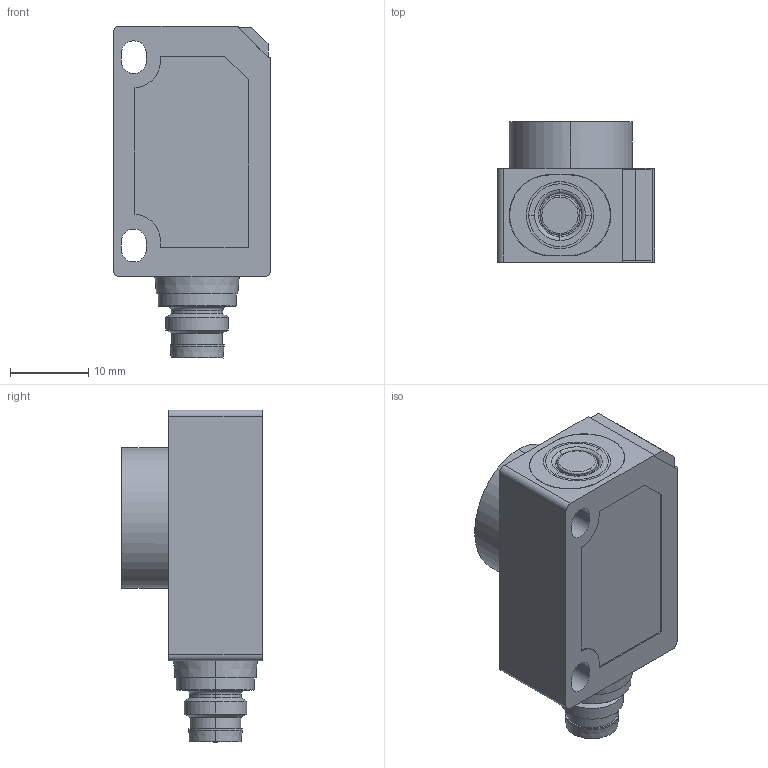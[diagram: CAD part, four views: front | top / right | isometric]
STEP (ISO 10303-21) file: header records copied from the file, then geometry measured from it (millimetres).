
FILE_DESCRIPTION((''),'2;1');
FILE_NAME('15300445_UT20_700.stp','2011-04-12T10:06:17',(''),(''),'Mechanical Desktop 2009','Mechanical Desktop 2009',', , ');
FILE_SCHEMA(('CONFIG_CONTROL_DESIGN'));
Length unit declared in the file: millimetre
Products named in the file (10): 15300444; F20 STECKERGERÄT; ANZEIGENTEIL_F20; DRUCKKNOPF_F20; KNOPF; AUSSENK; ~GEHÄUSE_F20_STECKER; STECKER_F20; WANDLER; AUFNAHME
Assembly tree (9 placements, depth 4):
  15300444
    F20 STECKERGERÄT
      ANZEIGENTEIL_F20
      DRUCKKNOPF_F20
        KNOPF
        AUSSENK
      ~GEHÄUSE_F20_STECKER
      STECKER_F20
      WANDLER
      AUFNAHME
Bounding box: 20.1 x 18 x 42.5 mm (x, y, z)
Volume: 8666.6 mm3; surface area: 4837.9 mm2
Topology: 7 solids, 7 shells, 112 faces, 252 edges, 162 vertices
Faces by surface type: plane 49, cylinder 39, cone 16, torus 4, bspline 4
Entity records: 3480 total; most frequent: CARTESIAN_POINT 656, DIRECTION 601, ORIENTED_EDGE 500, EDGE_CURVE 250, AXIS2_PLACEMENT_3D 233, VERTEX_POINT 162, VECTOR 135, LINE 135
